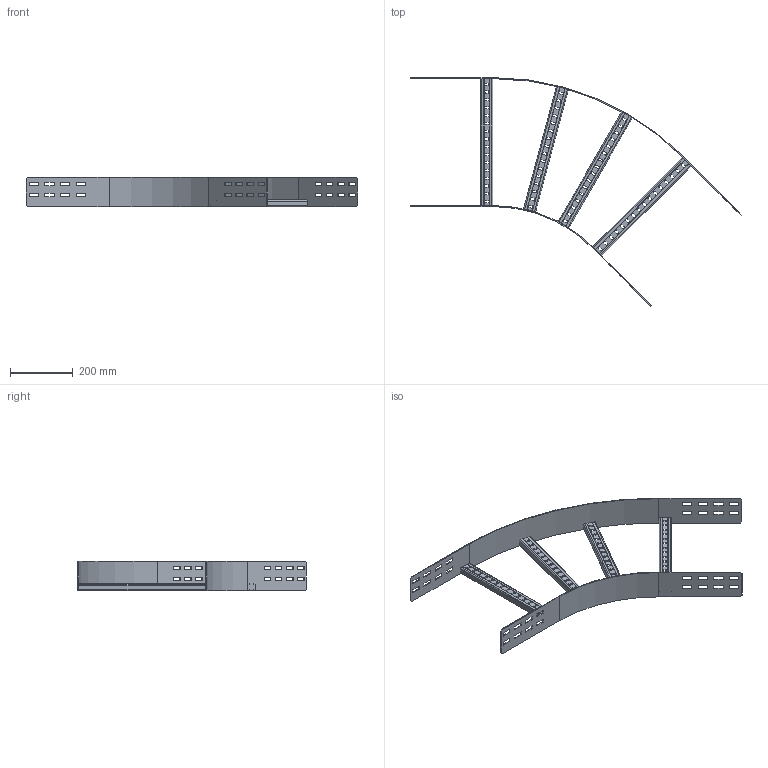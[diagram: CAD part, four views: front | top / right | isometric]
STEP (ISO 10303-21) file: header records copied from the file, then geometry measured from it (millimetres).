
FILE_DESCRIPTION(('Creo Elements/Direct Modeling STEP Export'),'2;1');
FILE_NAME('WPHB10-40-45-45.stp','2016-05-20T 8:30:07',(''),(''),'PTC Creo Elements/Direct Modeling STEP processor for AP214 (Solid Model)','PTC Creo Elements/Direct Modeling 19.0C 15-Aug-2015 (C) Parametric Technology GmbH','');
FILE_SCHEMA(('AUTOMOTIVE_DESIGN { 1 0 10303 214 1 1 1 1 }'));
Length unit declared in the file: millimetre
Products named in the file (4): WPHBS40.003; WPBA_100-40-45; WPBI_100-45; WPHB10-40-45-45
Assembly tree (6 placements, depth 2):
  WPHB10-40-45-45
    WPBI_100-45
    WPHBS40.003  x4
    WPBA_100-40-45
Bounding box: 1059.08 x 729.31 x 95 mm (x, y, z)
Volume: 797238.6 mm3; surface area: 720658.4 mm2
Topology: 6 solids, 6 shells, 572 faces, 1680 edges, 1120 vertices
Faces by surface type: plane 368, cylinder 204
Entity records: 8870 total; most frequent: CARTESIAN_POINT 1536, ORIENTED_EDGE 1524, DIRECTION 1402, EDGE_CURVE 762, VECTOR 654, LINE 654, VERTEX_POINT 508, AXIS2_PLACEMENT_3D 374
